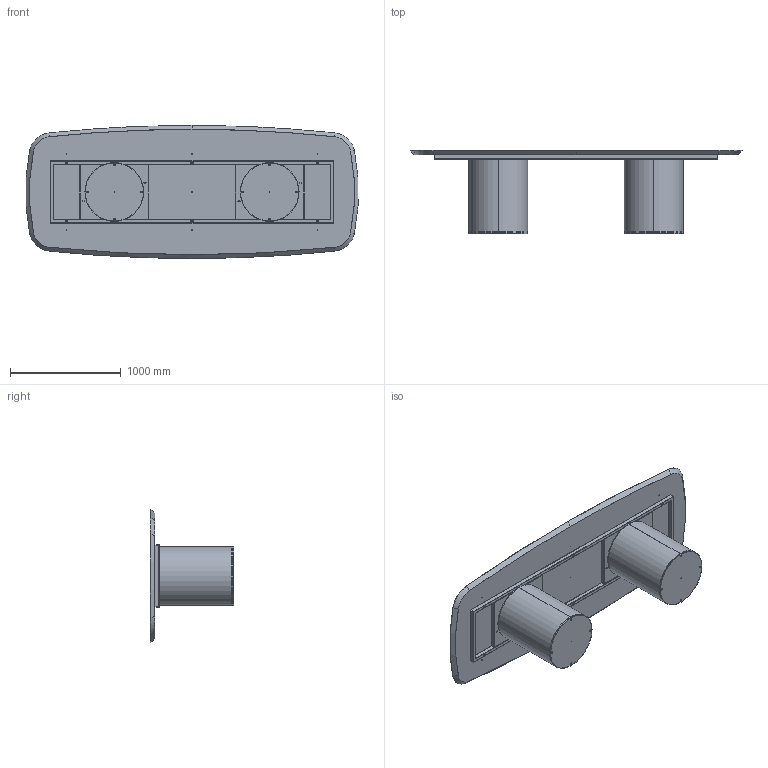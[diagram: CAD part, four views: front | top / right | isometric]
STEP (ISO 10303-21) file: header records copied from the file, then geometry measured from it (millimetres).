
FILE_DESCRIPTION (( 'STEP AP203' ), '1' );
FILE_NAME ('CI44W.STEP', '2024-08-08T07:12:38', ( '' ), ( '' ), 'SwSTEP 2.0', 'SolidWorks 2022', '' );
FILE_SCHEMA (( 'CONFIG_CONTROL_DESIGN' ));
Length unit declared in the file: millimetre
Products named in the file (12): TTAV03_01-06-RING TUBO TELAIO UNIVERSALE X TAVOLI 300-340cm; W4XCMXX-00-Piani Sagomati legno_3000 x 1200; TTAV03_02-06-VASSOIO IRRIGIDIMENTO TELAIO UNIVERSALE RETTANGOLARE; C2B000000_02-01-ZAVORRA IN FERRO D.530mm; C2B000000_01-00-struttura cilindro D.530mm; M8xXXmm_hex_M8X20mm; C2B000000-03-CILINDRO BASE D.530mm_Normale; M8xXXmm_M8x55mm; COLLO TELAIO UNIVERSALE TTAV03 CON FERRAMENTA_MTG TOP LEGNO-MARMO-KING; rondella M8_8X24; TTAV03-06-TELAIO UNIVERSALE X TAVOLI 300-340cm; CI44W
Assembly tree (26 placements, depth 4):
  CI44W
    C2B000000-03-CILINDRO BASE D.530mm_Normale  x2
      C2B000000_01-00-struttura cilindro D.530mm
      C2B000000_02-01-ZAVORRA IN FERRO D.530mm
      M8xXXmm_hex_M8X20mm
    COLLO TELAIO UNIVERSALE TTAV03 CON FERRAMENTA_MTG TOP LEGNO-MARMO-KING
      TTAV03-06-TELAIO UNIVERSALE X TAVOLI 300-340cm
        TTAV03_01-06-RING TUBO TELAIO UNIVERSALE X TAVOLI 300-340cm
        TTAV03_02-06-VASSOIO IRRIGIDIMENTO TELAIO UNIVERSALE RETTANGOLARE  x2
      rondella M8_8X24  x6
      M8xXXmm_M8x55mm  x6
    W4XCMXX-00-Piani Sagomati legno_3000 x 1200
Bounding box: 2991.72 x 748 x 1200 mm (x, y, z)
Volume: 137503295.6 mm3; surface area: 15923476.1 mm2
Topology: 34 solids, 34 shells, 1255 faces, 2874 edges, 1640 vertices
Faces by surface type: plane 506, cylinder 407, cone 209, torus 97, sphere 36
Entity records: 17243 total; most frequent: DIRECTION 2911, CARTESIAN_POINT 2672, ORIENTED_EDGE 2504, EDGE_CURVE 1252, AXIS2_PLACEMENT_3D 1114, VERTEX_POINT 757, LINE 683, VECTOR 683
